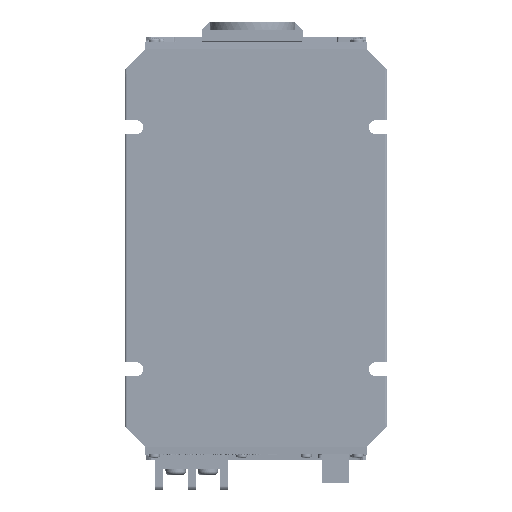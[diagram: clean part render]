
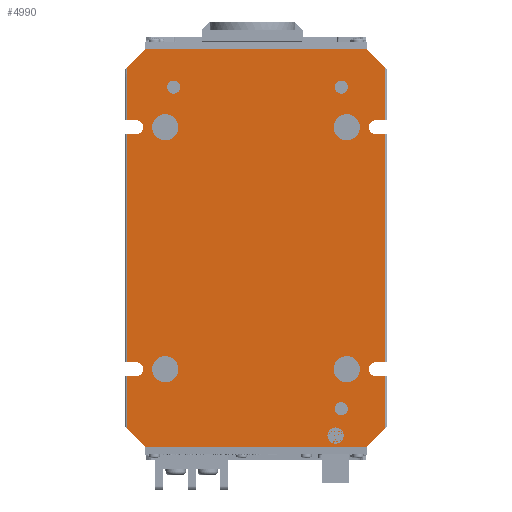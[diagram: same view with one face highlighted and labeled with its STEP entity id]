
A CAD part, front view. The second image highlights one B-rep face of the part: STEP entity #4990.
In plain terms, the highlighted planar face has unit normal (0, -1, 0).
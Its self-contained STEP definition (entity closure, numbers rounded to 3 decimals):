
#2360=CARTESIAN_POINT('',(2120.876,32.204,384.774));
#2370=DIRECTION('',(0.,1.,-0.));
#2380=DIRECTION('',(-1.,0.,0.));
#2390=AXIS2_PLACEMENT_3D('',#2360,#2370,#2380);
#2400=PLANE('',#2390);
#2410=CARTESIAN_POINT('',(2016.376,32.204,327.9));
#2420=DIRECTION('',(0.,-1.,0.));
#2430=DIRECTION('',(1.,0.,0.));
#2440=AXIS2_PLACEMENT_3D('',#2410,#2420,#2430);
#2450=CIRCLE('',#2440,6.5);
#2460=CARTESIAN_POINT('',(2022.876,32.204,327.9));
#2470=VERTEX_POINT('',#2460);
#2480=CARTESIAN_POINT('',(2009.876,32.204,327.9));
#2490=VERTEX_POINT('',#2480);
#2500=EDGE_CURVE('',#2470,#2490,#2450,.T.);
#2510=ORIENTED_EDGE('',*,*,#2500,.F.);
#2520=EDGE_CURVE('',#2490,#2470,#2450,.T.);
#2530=ORIENTED_EDGE('',*,*,#2520,.F.);
#2540=EDGE_LOOP('',(#2530,#2510));
#2550=FACE_BOUND('',#2540,.T.);
#2560=CARTESIAN_POINT('',(2106.376,32.204,327.9));
#2570=DIRECTION('',(0.,-1.,0.));
#2580=DIRECTION('',(1.,0.,0.));
#2590=AXIS2_PLACEMENT_3D('',#2560,#2570,#2580);
#2600=CIRCLE('',#2590,6.5);
#2610=CARTESIAN_POINT('',(2112.876,32.204,327.9));
#2620=VERTEX_POINT('',#2610);
#2630=CARTESIAN_POINT('',(2099.876,32.204,327.9));
#2640=VERTEX_POINT('',#2630);
#2650=EDGE_CURVE('',#2620,#2640,#2600,.T.);
#2660=ORIENTED_EDGE('',*,*,#2650,.F.);
#2670=EDGE_CURVE('',#2640,#2620,#2600,.T.);
#2680=ORIENTED_EDGE('',*,*,#2670,.F.);
#2690=EDGE_LOOP('',(#2680,#2660));
#2700=FACE_BOUND('',#2690,.T.);
#2710=CARTESIAN_POINT('',(2016.376,32.204,207.9));
#2720=DIRECTION('',(0.,-1.,0.));
#2730=DIRECTION('',(1.,0.,0.));
#2740=AXIS2_PLACEMENT_3D('',#2710,#2720,#2730);
#2750=CIRCLE('',#2740,6.5);
#2760=CARTESIAN_POINT('',(2022.876,32.204,207.9));
#2770=VERTEX_POINT('',#2760);
#2780=CARTESIAN_POINT('',(2009.876,32.204,207.9));
#2790=VERTEX_POINT('',#2780);
#2800=EDGE_CURVE('',#2770,#2790,#2750,.T.);
#2810=ORIENTED_EDGE('',*,*,#2800,.F.);
#2820=EDGE_CURVE('',#2790,#2770,#2750,.T.);
#2830=ORIENTED_EDGE('',*,*,#2820,.F.);
#2840=EDGE_LOOP('',(#2830,#2810));
#2850=FACE_BOUND('',#2840,.T.);
#2860=CARTESIAN_POINT('',(2106.376,32.204,207.9));
#2870=DIRECTION('',(0.,-1.,0.));
#2880=DIRECTION('',(1.,0.,0.));
#2890=AXIS2_PLACEMENT_3D('',#2860,#2870,#2880);
#2900=CIRCLE('',#2890,6.5);
#2910=CARTESIAN_POINT('',(2112.876,32.204,207.9));
#2920=VERTEX_POINT('',#2910);
#2930=CARTESIAN_POINT('',(2099.876,32.204,207.9));
#2940=VERTEX_POINT('',#2930);
#2950=EDGE_CURVE('',#2920,#2940,#2900,.T.);
#2960=ORIENTED_EDGE('',*,*,#2950,.F.);
#2970=EDGE_CURVE('',#2940,#2920,#2900,.T.);
#2980=ORIENTED_EDGE('',*,*,#2970,.F.);
#2990=EDGE_LOOP('',(#2980,#2960));
#3000=FACE_BOUND('',#2990,.T.);
#3010=CARTESIAN_POINT('',(1639.876,32.204,0.));
#3020=DIRECTION('',(0.707,0.,0.707));
#3030=VECTOR('',#3020,1.);
#3040=LINE('',#3010,#3030);
#3050=CARTESIAN_POINT('',(1997.376,32.204,357.5));
#3060=VERTEX_POINT('',#3050);
#3070=CARTESIAN_POINT('',(2006.376,32.204,366.5));
#3080=VERTEX_POINT('',#3070);
#3090=EDGE_CURVE('',#3060,#3080,#3040,.T.);
#3100=ORIENTED_EDGE('',*,*,#3090,.F.);
#3110=CARTESIAN_POINT('',(0.,32.204,366.5));
#3120=DIRECTION('',(1.,0.,0.));
#3130=VECTOR('',#3120,1.);
#3140=LINE('',#3110,#3130);
#3150=CARTESIAN_POINT('',(2116.376,32.204,366.5));
#3160=VERTEX_POINT('',#3150);
#3170=EDGE_CURVE('',#3080,#3160,#3140,.T.);
#3180=ORIENTED_EDGE('',*,*,#3170,.F.);
#3190=CARTESIAN_POINT('',(2482.876,32.204,0.));
#3200=DIRECTION('',(0.707,0.,-0.707));
#3210=VECTOR('',#3200,1.);
#3220=LINE('',#3190,#3210);
#3230=CARTESIAN_POINT('',(2125.376,32.204,357.5));
#3240=VERTEX_POINT('',#3230);
#3250=EDGE_CURVE('',#3160,#3240,#3220,.T.);
#3260=ORIENTED_EDGE('',*,*,#3250,.F.);
#3270=CARTESIAN_POINT('',(2125.376,32.204,0.));
#3280=DIRECTION('',(0.,0.,-1.));
#3290=VECTOR('',#3280,1.);
#3300=LINE('',#3270,#3290);
#3310=CARTESIAN_POINT('',(2125.376,32.204,331.4));
#3320=VERTEX_POINT('',#3310);
#3330=EDGE_CURVE('',#3240,#3320,#3300,.T.);
#3340=ORIENTED_EDGE('',*,*,#3330,.F.);
#3350=CARTESIAN_POINT('',(0.,32.204,331.4));
#3360=DIRECTION('',(-1.,0.,0.));
#3370=VECTOR('',#3360,1.);
#3380=LINE('',#3350,#3370);
#3390=CARTESIAN_POINT('',(2120.876,32.204,331.4));
#3400=VERTEX_POINT('',#3390);
#3410=EDGE_CURVE('',#3320,#3400,#3380,.T.);
#3420=ORIENTED_EDGE('',*,*,#3410,.F.);
#3430=CARTESIAN_POINT('',(2120.876,32.204,327.9));
#3440=DIRECTION('',(0.,-1.,0.));
#3450=DIRECTION('',(0.,0.,-1.));
#3460=AXIS2_PLACEMENT_3D('',#3430,#3440,#3450);
#3470=CIRCLE('',#3460,3.5);
#3480=CARTESIAN_POINT('',(2120.876,32.204,324.4));
#3490=VERTEX_POINT('',#3480);
#3500=EDGE_CURVE('',#3400,#3490,#3470,.T.);
#3510=ORIENTED_EDGE('',*,*,#3500,.F.);
#3520=CARTESIAN_POINT('',(0.,32.204,324.4));
#3530=DIRECTION('',(1.,0.,0.));
#3540=VECTOR('',#3530,1.);
#3550=LINE('',#3520,#3540);
#3560=CARTESIAN_POINT('',(2125.376,32.204,324.4));
#3570=VERTEX_POINT('',#3560);
#3580=EDGE_CURVE('',#3490,#3570,#3550,.T.);
#3590=ORIENTED_EDGE('',*,*,#3580,.F.);
#3600=CARTESIAN_POINT('',(2125.376,32.204,0.));
#3610=DIRECTION('',(0.,0.,-1.));
#3620=VECTOR('',#3610,1.);
#3630=LINE('',#3600,#3620);
#3640=CARTESIAN_POINT('',(2125.376,32.204,211.4));
#3650=VERTEX_POINT('',#3640);
#3660=EDGE_CURVE('',#3570,#3650,#3630,.T.);
#3670=ORIENTED_EDGE('',*,*,#3660,.F.);
#3680=CARTESIAN_POINT('',(0.,32.204,211.4));
#3690=DIRECTION('',(-1.,0.,0.));
#3700=VECTOR('',#3690,1.);
#3710=LINE('',#3680,#3700);
#3720=CARTESIAN_POINT('',(2120.876,32.204,211.4));
#3730=VERTEX_POINT('',#3720);
#3740=EDGE_CURVE('',#3650,#3730,#3710,.T.);
#3750=ORIENTED_EDGE('',*,*,#3740,.F.);
#3760=CARTESIAN_POINT('',(2120.876,32.204,207.9));
#3770=DIRECTION('',(0.,-1.,0.));
#3780=DIRECTION('',(0.,0.,-1.));
#3790=AXIS2_PLACEMENT_3D('',#3760,#3770,#3780);
#3800=CIRCLE('',#3790,3.5);
#3810=CARTESIAN_POINT('',(2120.876,32.204,204.4));
#3820=VERTEX_POINT('',#3810);
#3830=EDGE_CURVE('',#3730,#3820,#3800,.T.);
#3840=ORIENTED_EDGE('',*,*,#3830,.F.);
#3850=CARTESIAN_POINT('',(0.,32.204,204.4));
#3860=DIRECTION('',(1.,0.,0.));
#3870=VECTOR('',#3860,1.);
#3880=LINE('',#3850,#3870);
#3890=CARTESIAN_POINT('',(2125.376,32.204,204.4));
#3900=VERTEX_POINT('',#3890);
#3910=EDGE_CURVE('',#3820,#3900,#3880,.T.);
#3920=ORIENTED_EDGE('',*,*,#3910,.F.);
#3930=CARTESIAN_POINT('',(2125.376,32.204,0.));
#3940=DIRECTION('',(0.,0.,-1.));
#3950=VECTOR('',#3940,1.);
#3960=LINE('',#3930,#3950);
#3970=CARTESIAN_POINT('',(2125.376,32.204,178.3));
#3980=VERTEX_POINT('',#3970);
#3990=EDGE_CURVE('',#3900,#3980,#3960,.T.);
#4000=ORIENTED_EDGE('',*,*,#3990,.F.);
#4010=CARTESIAN_POINT('',(1938.476,32.204,-8.6));
#4020=DIRECTION('',(-0.707,0.,-0.707));
#4030=VECTOR('',#4020,1.);
#4040=LINE('',#4010,#4030);
#4050=CARTESIAN_POINT('',(2116.376,32.204,169.3));
#4060=VERTEX_POINT('',#4050);
#4070=EDGE_CURVE('',#3980,#4060,#4040,.T.);
#4080=ORIENTED_EDGE('',*,*,#4070,.F.);
#4090=CARTESIAN_POINT('',(0.,32.204,169.3));
#4100=DIRECTION('',(1.,0.,0.));
#4110=VECTOR('',#4100,1.);
#4120=LINE('',#4090,#4110);
#4130=CARTESIAN_POINT('',(2006.376,32.204,169.3));
#4140=VERTEX_POINT('',#4130);
#4150=EDGE_CURVE('',#4140,#4060,#4120,.T.);
#4160=ORIENTED_EDGE('',*,*,#4150,.T.);
#4170=CARTESIAN_POINT('',(2184.276,32.204,-8.6));
#4180=DIRECTION('',(-0.707,0.,0.707));
#4190=VECTOR('',#4180,1.);
#4200=LINE('',#4170,#4190);
#4210=CARTESIAN_POINT('',(1997.376,32.204,178.3));
#4220=VERTEX_POINT('',#4210);
#4230=EDGE_CURVE('',#4140,#4220,#4200,.T.);
#4240=ORIENTED_EDGE('',*,*,#4230,.F.);
#4250=CARTESIAN_POINT('',(1997.376,32.204,0.));
#4260=DIRECTION('',(0.,0.,1.));
#4270=VECTOR('',#4260,1.);
#4280=LINE('',#4250,#4270);
#4290=CARTESIAN_POINT('',(1997.376,32.204,204.4));
#4300=VERTEX_POINT('',#4290);
#4310=EDGE_CURVE('',#4220,#4300,#4280,.T.);
#4320=ORIENTED_EDGE('',*,*,#4310,.F.);
#4330=CARTESIAN_POINT('',(0.,32.204,204.4));
#4340=DIRECTION('',(1.,0.,0.));
#4350=VECTOR('',#4340,1.);
#4360=LINE('',#4330,#4350);
#4370=CARTESIAN_POINT('',(2001.876,32.204,204.4));
#4380=VERTEX_POINT('',#4370);
#4390=EDGE_CURVE('',#4300,#4380,#4360,.T.);
#4400=ORIENTED_EDGE('',*,*,#4390,.F.);
#4410=CARTESIAN_POINT('',(2001.876,32.204,207.9));
#4420=DIRECTION('',(0.,-1.,0.));
#4430=DIRECTION('',(0.,0.,-1.));
#4440=AXIS2_PLACEMENT_3D('',#4410,#4420,#4430);
#4450=CIRCLE('',#4440,3.5);
#4460=CARTESIAN_POINT('',(2001.876,32.204,211.4));
#4470=VERTEX_POINT('',#4460);
#4480=EDGE_CURVE('',#4380,#4470,#4450,.T.);
#4490=ORIENTED_EDGE('',*,*,#4480,.F.);
#4500=CARTESIAN_POINT('',(0.,32.204,211.4));
#4510=DIRECTION('',(-1.,0.,0.));
#4520=VECTOR('',#4510,1.);
#4530=LINE('',#4500,#4520);
#4540=CARTESIAN_POINT('',(1997.376,32.204,211.4));
#4550=VERTEX_POINT('',#4540);
#4560=EDGE_CURVE('',#4470,#4550,#4530,.T.);
#4570=ORIENTED_EDGE('',*,*,#4560,.F.);
#4580=CARTESIAN_POINT('',(1997.376,32.204,0.));
#4590=DIRECTION('',(0.,0.,1.));
#4600=VECTOR('',#4590,1.);
#4610=LINE('',#4580,#4600);
#4620=CARTESIAN_POINT('',(1997.376,32.204,324.4));
#4630=VERTEX_POINT('',#4620);
#4640=EDGE_CURVE('',#4550,#4630,#4610,.T.);
#4650=ORIENTED_EDGE('',*,*,#4640,.F.);
#4660=CARTESIAN_POINT('',(0.,32.204,324.4));
#4670=DIRECTION('',(1.,0.,0.));
#4680=VECTOR('',#4670,1.);
#4690=LINE('',#4660,#4680);
#4700=CARTESIAN_POINT('',(2001.876,32.204,324.4));
#4710=VERTEX_POINT('',#4700);
#4720=EDGE_CURVE('',#4630,#4710,#4690,.T.);
#4730=ORIENTED_EDGE('',*,*,#4720,.F.);
#4740=CARTESIAN_POINT('',(2001.876,32.204,327.9));
#4750=DIRECTION('',(0.,-1.,0.));
#4760=DIRECTION('',(0.,0.,-1.));
#4770=AXIS2_PLACEMENT_3D('',#4740,#4750,#4760);
#4780=CIRCLE('',#4770,3.5);
#4790=CARTESIAN_POINT('',(2001.876,32.204,331.4));
#4800=VERTEX_POINT('',#4790);
#4810=EDGE_CURVE('',#4710,#4800,#4780,.T.);
#4820=ORIENTED_EDGE('',*,*,#4810,.F.);
#4830=CARTESIAN_POINT('',(0.,32.204,331.4));
#4840=DIRECTION('',(-1.,0.,0.));
#4850=VECTOR('',#4840,1.);
#4860=LINE('',#4830,#4850);
#4870=CARTESIAN_POINT('',(1997.376,32.204,331.4));
#4880=VERTEX_POINT('',#4870);
#4890=EDGE_CURVE('',#4800,#4880,#4860,.T.);
#4900=ORIENTED_EDGE('',*,*,#4890,.F.);
#4910=CARTESIAN_POINT('',(1997.376,32.204,0.));
#4920=DIRECTION('',(0.,0.,1.));
#4930=VECTOR('',#4920,1.);
#4940=LINE('',#4910,#4930);
#4950=EDGE_CURVE('',#4880,#3060,#4940,.T.);
#4960=ORIENTED_EDGE('',*,*,#4950,.F.);
#4970=EDGE_LOOP('',(#4960,#4900,#4820,#4730,#4650,#4570,#4490,#4400,
#4320,#4240,#4160,#4080,#4000,#3920,#3840,#3750,#3670,#3590,#3510,#3420,
#3340,#3260,#3180,#3100));
#4980=FACE_OUTER_BOUND('',#4970,.T.);
#4990=ADVANCED_FACE('',(#2550,#2700,#2850,#3000,#4980),#2400,.F.);
